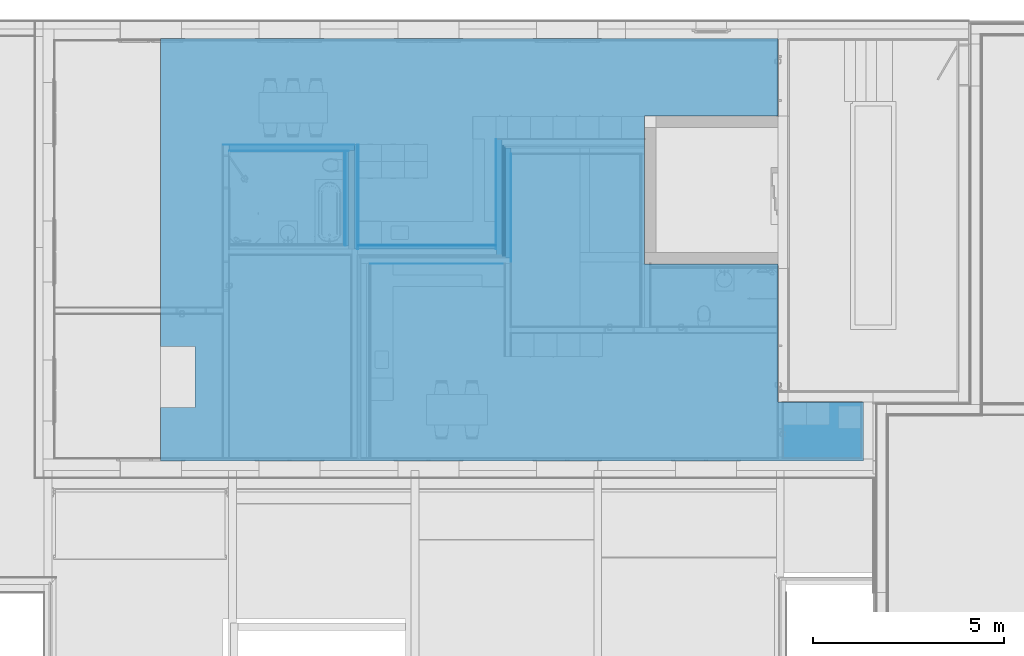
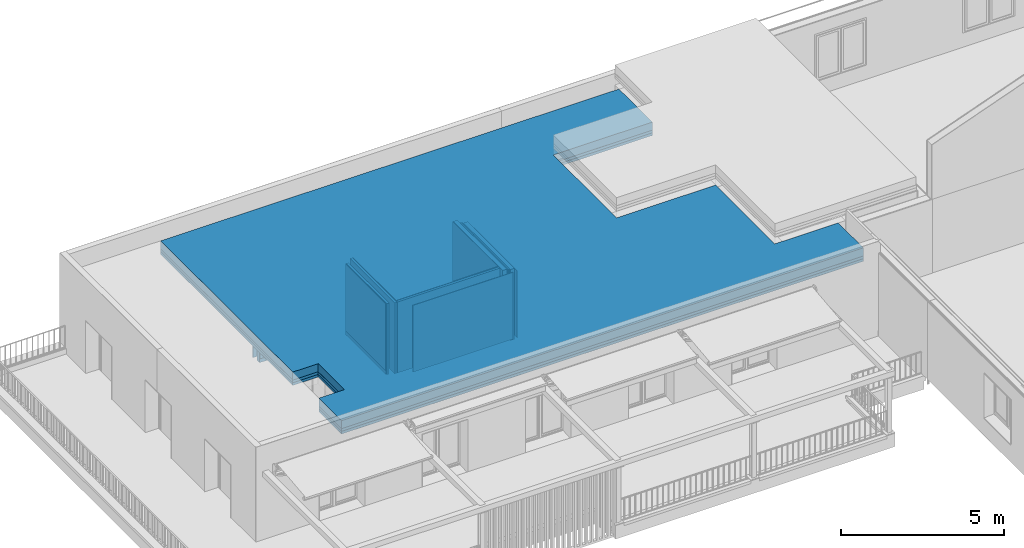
# One storey, part 10 of 36: 27 building element parts, 8 elements without a shape of their own.
"""IFC4 building model written with IfcOpenShell, lengths in millimetres."""

from ifc_helpers import new_model, entity, si_unit, converted_unit, derived_unit, direction, frame, origin_with_axes, place, context, subcontext, project, spatial, polygons, material, type_object, element, aggregate, save


model = new_model("IFC4")

# Units and contexts
model_context = context("Model", 3, precision=0.01, world=origin_with_axes(), true_north=direction((0.0, 1.0)))
body_context = subcontext(model_context, "Body", "Model", "MODEL_VIEW")
ifc_project = project(units=[si_unit("LENGTHUNIT", "METRE", prefix="MILLI"), si_unit("AREAUNIT", "SQUARE_METRE"), si_unit("VOLUMEUNIT", "CUBIC_METRE"), converted_unit("PLANEANGLEUNIT", "DEGREE", entity("IfcPlaneAngleMeasure", 0.0174532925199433), si_unit("PLANEANGLEUNIT", "RADIAN"), dimensions=[0, 0, 0, 0, 0, 0, 0]), converted_unit("TIMEUNIT", "Year", entity("IfcTimeMeasure", 31557600.0), si_unit("TIMEUNIT", "SECOND"), dimensions=[0, 0, 1, 0, 0, 0, 0]), si_unit("MASSUNIT", "GRAM", prefix="KILO"), si_unit("THERMODYNAMICTEMPERATUREUNIT", "DEGREE_CELSIUS"), si_unit("LUMINOUSINTENSITYUNIT", "LUMEN"), si_unit("ENERGYUNIT", "JOULE", prefix="MEGA"), derived_unit("THERMALCONDUCTANCEUNIT", [(si_unit("POWERUNIT", "WATT"), 1), (si_unit("LENGTHUNIT", "METRE"), -1), (si_unit("THERMODYNAMICTEMPERATUREUNIT", "KELVIN"), -1)]), derived_unit("SPECIFICHEATCAPACITYUNIT", [(si_unit("ENERGYUNIT", "JOULE"), 1), (si_unit("MASSUNIT", "GRAM", prefix="KILO"), -1), (si_unit("THERMODYNAMICTEMPERATUREUNIT", "KELVIN"), -1)]), derived_unit("MASSDENSITYUNIT", [(si_unit("MASSUNIT", "GRAM", prefix="KILO"), 1), (si_unit("VOLUMEUNIT", "CUBIC_METRE"), -1)])], contexts=[model_context])

# Site, building, storey
site_placement = place(None, origin_with_axes())
site = spatial("IfcSite", under=ifc_project, at=site_placement, Name="Gelände", CompositionType="ELEMENT")
building_placement = place(site_placement, origin_with_axes())
building = spatial("IfcBuilding", under=site, at=building_placement, Name="Gebäude", CompositionType="ELEMENT")
storey_placement = place(building_placement, frame((0.0, 0.0, 8700.0), z_axis=(0.0, 0.0, 1.0), x_axis=(1.0, 0.0, 0.0)))
storey = spatial("IfcBuildingStorey", under=building, at=storey_placement, Name="Attika", CompositionType="ELEMENT", Elevation=8700.0)

# Covering, building element parts
covering_type = type_object("IfcCoveringType", Name="Dacheindeckung Typ 02 - Flachdach 502", PredefinedType="NOTDEFINED")
covering_placement = place(storey_placement, frame((-770.3482138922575, 26407.59674077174, 2900.0), z_axis=(0.0, 0.0, 1.0), x_axis=(1.0, 0.0, 0.0)))
covering = element("IfcCovering", 1, at=covering_placement, inside=storey, type_object=covering_type, Name="Deckennr.-073", PredefinedType="NOTDEFINED")
ifc_material_1 = material(Name="Dachbegrünung extensiv")
building_element_part_1_placement = place(covering_placement, origin_with_axes())
building_element_part_1 = element("IfcBuildingElementPart", 2, at=building_element_part_1_placement, material=ifc_material_1, Name="Dachbegrünung extensiv", PredefinedType="NOTDEFINED", context=body_context, shape_type="Tessellation", body=[
    polygons([(18440.34565866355, 0.0, 201.9999999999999), (18440.34565866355, 0.0, 502.0000000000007), (0.0, 0.0, 502.0000000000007), (0.0, 0.0, 201.9999999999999), (18440.34565866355, 1540.000645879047, 201.9999999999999), (18440.34565866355, 1540.000645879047, 502.0000000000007), (16199.34564733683, 1540.000645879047, 502.0000000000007), (16199.34564733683, 5165.000494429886, 502.0000000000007), (12699.34581277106, 5165.000494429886, 502.0000000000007), (12699.34581277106, 9040.000649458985, 502.0000000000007), (16199.34564733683, 9040.000649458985, 502.0000000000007), (16199.34564733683, 11080.00054054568, 502.0000000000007), (0.0, 11080.00054054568, 502.0000000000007), (0.0, 2992.816803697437, 502.0000000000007), (900.0001006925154, 2992.816803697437, 502.0000000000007), (900.0001006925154, 1392.816624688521, 502.0000000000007), (0.0, 1392.816624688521, 502.0000000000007), (0.0, 1392.816624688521, 201.9999999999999), (900.0001006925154, 1392.816624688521, 201.9999999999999), (900.0001006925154, 2992.816803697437, 201.9999999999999), (0.0, 2992.816803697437, 201.9999999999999), (0.0, 11080.00054054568, 201.9999999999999), (16199.34564733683, 11080.00054054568, 201.9999999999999), (16199.34564733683, 9040.000649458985, 201.9999999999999), (12699.34581277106, 9040.000649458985, 201.9999999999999), (12699.34581277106, 5165.000494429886, 201.9999999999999), (16199.34564733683, 5165.000494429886, 201.9999999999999), (16199.34564733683, 1540.000645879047, 201.9999999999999)], [[[1, 2, 3, 4]], [[5, 6, 2, 1]], [[3, 2, 6, 7, 8, 9, 10, 11, 12, 13, 14, 15, 16, 17]], [[4, 3, 17, 18]], [[4, 18, 19, 20, 21, 22, 23, 24, 25, 26, 27, 28, 5, 1]], [[28, 7, 6, 5]], [[27, 8, 7, 28]], [[26, 9, 8, 27]], [[25, 10, 9, 26]], [[24, 11, 10, 25]], [[23, 12, 11, 24]], [[22, 13, 12, 23]], [[21, 14, 13, 22]], [[20, 15, 14, 21]], [[19, 16, 15, 20]], [[18, 17, 16, 19]]], closed=True),
])
ifc_material_2 = material(Name="Abdichtung Bitumen")
building_element_part_2_placement = place(covering_placement, origin_with_axes())
building_element_part_2 = element("IfcBuildingElementPart", 3, at=building_element_part_2_placement, material=ifc_material_2, Name="Abdichtung Bitumen", PredefinedType="NOTDEFINED", context=body_context, shape_type="Tessellation", body=[
    polygons([(18440.34565866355, 0.0, 201.0000000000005), (18440.34565866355, 0.0, 201.9999999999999), (0.0, 0.0, 201.9999999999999), (0.0, 0.0, 201.0000000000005), (18440.34565866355, 1540.000645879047, 201.0000000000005), (18440.34565866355, 1540.000645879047, 201.9999999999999), (16199.34564733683, 1540.000645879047, 201.9999999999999), (16199.34564733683, 5165.000494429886, 201.9999999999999), (12699.34581277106, 5165.000494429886, 201.9999999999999), (12699.34581277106, 9040.000649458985, 201.9999999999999), (16199.34564733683, 9040.000649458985, 201.9999999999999), (16199.34564733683, 11080.00054054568, 201.9999999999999), (0.0, 11080.00054054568, 201.9999999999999), (0.0, 2992.816803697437, 201.9999999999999), (900.0001006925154, 2992.816803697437, 201.9999999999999), (900.0001006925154, 1392.816624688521, 201.9999999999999), (0.0, 1392.816624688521, 201.9999999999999), (0.0, 1392.816624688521, 201.0000000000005), (900.0001006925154, 1392.816624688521, 201.0000000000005), (900.0001006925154, 2992.816803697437, 201.0000000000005), (0.0, 2992.816803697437, 201.0000000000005), (0.0, 11080.00054054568, 201.0000000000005), (16199.34564733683, 11080.00054054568, 201.0000000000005), (16199.34564733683, 9040.000649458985, 201.0000000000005), (12699.34581277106, 9040.000649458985, 201.0000000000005), (12699.34581277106, 5165.000494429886, 201.0000000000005), (16199.34564733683, 5165.000494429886, 201.0000000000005), (16199.34564733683, 1540.000645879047, 201.0000000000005)], [[[1, 2, 3, 4]], [[5, 6, 2, 1]], [[3, 2, 6, 7, 8, 9, 10, 11, 12, 13, 14, 15, 16, 17]], [[4, 3, 17, 18]], [[4, 18, 19, 20, 21, 22, 23, 24, 25, 26, 27, 28, 5, 1]], [[28, 7, 6, 5]], [[27, 8, 7, 28]], [[26, 9, 8, 27]], [[25, 10, 9, 26]], [[24, 11, 10, 25]], [[23, 12, 11, 24]], [[22, 13, 12, 23]], [[21, 14, 13, 22]], [[20, 15, 14, 21]], [[19, 16, 15, 20]], [[18, 17, 16, 19]]], closed=True),
])
ifc_material_3 = material(Name="Aufdachdämmung")
building_element_part_3_placement = place(covering_placement, origin_with_axes())
building_element_part_3 = element("IfcBuildingElementPart", 4, at=building_element_part_3_placement, material=ifc_material_3, Name="Aufdachdämmung", PredefinedType="NOTDEFINED", context=body_context, shape_type="Tessellation", body=[
    polygons([(18440.34565866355, 0.0, 101.0000000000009), (18440.34565866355, 0.0, 201.0000000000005), (0.0, 0.0, 201.0000000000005), (0.0, 0.0, 101.0000000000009), (18440.34565866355, 1540.000645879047, 101.0000000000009), (18440.34565866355, 1540.000645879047, 201.0000000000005), (16199.34564733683, 1540.000645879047, 201.0000000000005), (16199.34564733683, 5165.000494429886, 201.0000000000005), (12699.34581277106, 5165.000494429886, 201.0000000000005), (12699.34581277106, 9040.000649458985, 201.0000000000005), (16199.34564733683, 9040.000649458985, 201.0000000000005), (16199.34564733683, 11080.00054054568, 201.0000000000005), (0.0, 11080.00054054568, 201.0000000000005), (0.0, 2992.816803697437, 201.0000000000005), (900.0001006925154, 2992.816803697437, 201.0000000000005), (900.0001006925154, 1392.816624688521, 201.0000000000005), (0.0, 1392.816624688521, 201.0000000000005), (0.0, 1392.816624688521, 101.0000000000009), (900.0001006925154, 1392.816624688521, 101.0000000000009), (900.0001006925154, 2992.816803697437, 101.0000000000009), (0.0, 2992.816803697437, 101.0000000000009), (0.0, 11080.00054054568, 101.0000000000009), (16199.34564733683, 11080.00054054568, 101.0000000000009), (16199.34564733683, 9040.000649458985, 101.0000000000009), (12699.34581277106, 9040.000649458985, 101.0000000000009), (12699.34581277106, 5165.000494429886, 101.0000000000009), (16199.34564733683, 5165.000494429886, 101.0000000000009), (16199.34564733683, 1540.000645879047, 101.0000000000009)], [[[1, 2, 3, 4]], [[5, 6, 2, 1]], [[3, 2, 6, 7, 8, 9, 10, 11, 12, 13, 14, 15, 16, 17]], [[4, 3, 17, 18]], [[4, 18, 19, 20, 21, 22, 23, 24, 25, 26, 27, 28, 5, 1]], [[28, 7, 6, 5]], [[27, 8, 7, 28]], [[26, 9, 8, 27]], [[25, 10, 9, 26]], [[24, 11, 10, 25]], [[23, 12, 11, 24]], [[22, 13, 12, 23]], [[21, 14, 13, 22]], [[20, 15, 14, 21]], [[19, 16, 15, 20]], [[18, 17, 16, 19]]], closed=True),
])
ifc_material_4 = material(Name="Dampf- / Luftdichtigkeitsschicht")
building_element_part_4_placement = place(covering_placement, origin_with_axes())
building_element_part_4 = element("IfcBuildingElementPart", 5, at=building_element_part_4_placement, material=ifc_material_4, Name="Dampf- / Luftdichtigkeitsschicht", PredefinedType="NOTDEFINED", context=body_context, shape_type="Tessellation", body=[
    polygons([(18440.34565866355, 0.0, 1.000000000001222), (0.0, 0.0, 1.000000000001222), (0.0, 0.0, 0.0), (18440.34565866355, 0.0, 0.0), (900.0001006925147, 1392.816624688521, 1.000000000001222), (0.0, 1392.816624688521, 1.000000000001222), (18440.34565866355, 1540.000645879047, 1.000000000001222), (16199.34564733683, 1540.000645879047, 1.000000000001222), (16199.34564733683, 5165.000494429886, 1.000000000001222), (12699.34581277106, 5165.000494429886, 1.000000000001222), (12699.34581277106, 9040.000649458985, 1.000000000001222), (16199.34564733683, 9040.000649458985, 1.000000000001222), (16199.34564733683, 11080.00054054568, 1.000000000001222), (0.0, 11080.00054054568, 1.000000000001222), (0.0, 2992.816803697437, 1.000000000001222), (900.0001006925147, 2992.816803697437, 1.000000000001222), (0.0, 1392.816624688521, 0.0), (18440.34565866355, 1540.000645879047, 0.0), (900.0001006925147, 1392.816624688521, 0.0), (900.0001006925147, 2992.816803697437, 0.0), (0.0, 2992.816803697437, 0.0), (0.0, 11080.00054054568, 0.0), (16199.34564733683, 11080.00054054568, 0.0), (16199.34564733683, 9040.000649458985, 0.0), (12699.34581277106, 9040.000649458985, 0.0), (12699.34581277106, 5165.000494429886, 0.0), (16199.34564733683, 5165.000494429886, 0.0), (16199.34564733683, 1540.000645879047, 0.0)], [[[1, 2, 3, 4]], [[5, 6, 2, 1, 7, 8, 9, 10, 11, 12, 13, 14, 15, 16]], [[2, 6, 17, 3]], [[18, 4, 3, 17, 19, 20, 21, 22, 23, 24, 25, 26, 27, 28]], [[7, 1, 4, 18]], [[6, 5, 19, 17]], [[8, 7, 18, 28]], [[9, 8, 28, 27]], [[10, 9, 27, 26]], [[11, 10, 26, 25]], [[12, 11, 25, 24]], [[13, 12, 24, 23]], [[14, 13, 23, 22]], [[15, 14, 22, 21]], [[16, 15, 21, 20]], [[5, 16, 20, 19]]], closed=True),
])
ifc_material_5 = material(Name="Gefällsdämmung")
building_element_part_5_placement = place(covering_placement, origin_with_axes())
building_element_part_5 = element("IfcBuildingElementPart", 6, at=building_element_part_5_placement, material=ifc_material_5, Name="Gefällsdämmung", PredefinedType="NOTDEFINED", context=body_context, shape_type="Tessellation", body=[
    polygons([(18440.34565866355, 0.0, 1.000000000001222), (18440.34565866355, 0.0, 101.0000000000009), (0.0, 0.0, 101.0000000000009), (0.0, 0.0, 1.000000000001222), (18440.34565866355, 1540.000645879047, 1.000000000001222), (18440.34565866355, 1540.000645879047, 101.0000000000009), (16199.34564733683, 1540.000645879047, 101.0000000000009), (16199.34564733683, 5165.000494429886, 101.0000000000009), (12699.34581277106, 5165.000494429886, 101.0000000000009), (12699.34581277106, 9040.000649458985, 101.0000000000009), (16199.34564733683, 9040.000649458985, 101.0000000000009), (16199.34564733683, 11080.00054054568, 101.0000000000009), (0.0, 11080.00054054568, 101.0000000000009), (0.0, 2992.816803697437, 101.0000000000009), (900.0001006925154, 2992.816803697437, 101.0000000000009), (900.0001006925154, 1392.816624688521, 101.0000000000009), (0.0, 1392.816624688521, 101.0000000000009), (0.0, 1392.816624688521, 1.000000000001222), (900.0001006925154, 1392.816624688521, 1.000000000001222), (900.0001006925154, 2992.816803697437, 1.000000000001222), (0.0, 2992.816803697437, 1.000000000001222), (0.0, 11080.00054054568, 1.000000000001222), (16199.34564733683, 11080.00054054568, 1.000000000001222), (16199.34564733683, 9040.000649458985, 1.000000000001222), (12699.34581277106, 9040.000649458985, 1.000000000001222), (12699.34581277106, 5165.000494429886, 1.000000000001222), (16199.34564733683, 5165.000494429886, 1.000000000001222), (16199.34564733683, 1540.000645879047, 1.000000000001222)], [[[1, 2, 3, 4]], [[5, 6, 2, 1]], [[3, 2, 6, 7, 8, 9, 10, 11, 12, 13, 14, 15, 16, 17]], [[4, 3, 17, 18]], [[4, 18, 19, 20, 21, 22, 23, 24, 25, 26, 27, 28, 5, 1]], [[28, 7, 6, 5]], [[27, 8, 7, 28]], [[26, 9, 8, 27]], [[25, 10, 9, 26]], [[24, 11, 10, 25]], [[23, 12, 11, 24]], [[22, 13, 12, 23]], [[21, 14, 13, 22]], [[20, 15, 14, 21]], [[19, 16, 15, 20]], [[18, 17, 16, 19]]], closed=True),
])
aggregate(covering, [building_element_part_1, building_element_part_2, building_element_part_3, building_element_part_4, building_element_part_5])

# Wall, building element parts
wall_type_1 = type_object("IfcWallType", Name="Trennwand Typ 03 - verputzt 200", PredefinedType="NOTDEFINED")
wall_1_placement = place(storey_placement, frame((8038.997444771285, 34837.59728131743, 0.0), z_axis=(0.0, 0.0, 1.0), x_axis=(0.0, -1.0, 0.0)))
wall_1 = element("IfcWall", 7, at=wall_1_placement, inside=storey, type_object=wall_type_1, Name="Wand-014", PredefinedType="NOTDEFINED")
ifc_material_6 = material(Name="MW, Backstein")
building_element_part_6_placement = place(wall_1_placement, origin_with_axes())
building_element_part_6 = element("IfcBuildingElementPart", 8, at=building_element_part_6_placement, material=ifc_material_6, Name="MW, Backstein", PredefinedType="NOTDEFINED", context=body_context, shape_type="Tessellation", body=[
    polygons([(3024.999999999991, 0.0, 0.0), (0.0, 0.0, 0.0), (0.0, 150.0000000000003, 0.0), (3024.999999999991, 150.0000000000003, 0.0), (3024.999999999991, 0.0, 2649.999948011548), (0.0, 0.0, 2649.999948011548), (0.0, 150.0000000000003, 2649.999948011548), (3024.999999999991, 150.0000000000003, 2649.999948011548)], [[[1, 2, 3, 4]], [[5, 6, 2, 1]], [[3, 2, 6, 7]], [[4, 3, 7, 8]], [[4, 8, 5, 1]], [[8, 7, 6, 5]]], closed=True),
])
ifc_material_7 = material(Name="Kalkzementputz Aussen")
building_element_part_7_placement = place(wall_1_placement, origin_with_axes())
building_element_part_7 = element("IfcBuildingElementPart", 9, at=building_element_part_7_placement, material=ifc_material_7, Name="Kalkzementputz Aussen", PredefinedType="NOTDEFINED", context=body_context, shape_type="Tessellation", body=[
    polygons([(2874.999999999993, 0.0, 150.0000000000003), (0.0, 0.0, 150.0000000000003), (-9.99999999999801, 0.0, 150.0000000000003), (-9.99999999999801, 0.0, 2649.999948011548), (2874.999999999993, 0.0, 2649.999948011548), (-9.99999999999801, -9.999999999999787, 150.0000000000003), (2874.999999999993, -9.999999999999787, 150.0000000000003), (-9.99999999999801, -9.999999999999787, 2649.999948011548), (2874.999999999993, -9.999999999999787, 2649.999948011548)], [[[1, 2, 3, 4, 5]], [[6, 3, 2, 1, 7]], [[3, 6, 8, 4]], [[9, 5, 4, 8]], [[7, 1, 5, 9]], [[6, 7, 9, 8]]], closed=True),
])
ifc_material_8 = material(Name="Dämmung Innen")
building_element_part_8_placement = place(wall_1_placement, origin_with_axes())
building_element_part_8 = element("IfcBuildingElementPart", 10, at=building_element_part_8_placement, material=ifc_material_8, Name="Dämmung Innen", PredefinedType="NOTDEFINED", context=body_context, shape_type="Tessellation", body=[
    polygons([(3064.999999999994, 189.9999999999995, 0.0), (3064.999999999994, 150.0000000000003, 0.0), (149.9999999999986, 150.0000000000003, 0.0), (149.9999999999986, 189.9999999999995, 0.0), (3064.999999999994, 189.9999999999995, 2649.999948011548), (3064.999999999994, 150.0000000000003, 2649.999948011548), (149.9999999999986, 150.0000000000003, 2649.999948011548), (149.9999999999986, 189.9999999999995, 2649.999948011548)], [[[1, 2, 3, 4]], [[2, 1, 5, 6]], [[2, 6, 7, 3]], [[8, 4, 3, 7]], [[5, 1, 4, 8]], [[6, 5, 8, 7]]], closed=True),
])
aggregate(wall_1, [building_element_part_6, building_element_part_7, building_element_part_8])

wall_2_placement = place(storey_placement, frame((8418.997444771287, 31582.59728131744, 0.0), z_axis=(0.0, 0.0, 1.0), x_axis=(0.0, 1.0, 0.0)))
wall_2 = element("IfcWall", 11, at=wall_2_placement, inside=storey, type_object=wall_type_1, Name="Wand-016", PredefinedType="NOTDEFINED")
building_element_part_9_placement = place(wall_2_placement, origin_with_axes())
building_element_part_9 = element("IfcBuildingElementPart", 12, at=building_element_part_9_placement, material=ifc_material_8, Name="Dämmung Innen", PredefinedType="NOTDEFINED", context=body_context, shape_type="Tessellation", body=[
    polygons([(3064.99999999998, 150.0000000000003, 0.0), (190.0000000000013, 150.0000000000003, 0.0), (190.0000000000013, 189.9999999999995, 0.0), (3064.99999999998, 189.9999999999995, 0.0), (3064.99999999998, 150.0000000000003, 2649.999948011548), (190.0000000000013, 150.0000000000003, 2649.999948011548), (190.0000000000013, 189.9999999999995, 2649.999948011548), (3064.99999999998, 189.9999999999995, 2649.999948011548)], [[[1, 2, 3, 4]], [[5, 6, 2, 1]], [[3, 2, 6, 7]], [[4, 3, 7, 8]], [[4, 8, 5, 1]], [[8, 7, 6, 5]]], closed=True),
])
building_element_part_10_placement = place(wall_2_placement, origin_with_axes())
building_element_part_10 = element("IfcBuildingElementPart", 13, at=building_element_part_10_placement, material=ifc_material_6, Name="MW, Backstein", PredefinedType="NOTDEFINED", context=body_context, shape_type="Tessellation", body=[
    polygons([(3024.999999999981, 0.0, 0.0), (149.9999999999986, 0.0, 0.0), (149.9999999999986, 150.0000000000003, 0.0), (3024.999999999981, 150.0000000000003, 0.0), (3024.999999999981, 0.0, 2649.999948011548), (149.9999999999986, 0.0, 2649.999948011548), (149.9999999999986, 150.0000000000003, 2649.999948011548), (3024.999999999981, 150.0000000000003, 2649.999948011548)], [[[1, 2, 3, 4]], [[5, 6, 2, 1]], [[3, 2, 6, 7]], [[4, 3, 7, 8]], [[4, 8, 5, 1]], [[8, 7, 6, 5]]], closed=True),
])

# Wall, building element part
wall_3_placement = place(storey_placement, frame((4625.995818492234, 31582.59728131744, 0.0), z_axis=(0.0, 0.0, 1.0), x_axis=(1.0, 0.0, 0.0)))
wall_3 = element("IfcWall", 14, at=wall_3_placement, inside=storey, type_object=wall_type_1, Name="Wand-015", PredefinedType="NOTDEFINED")
building_element_part_11_placement = place(wall_3_placement, origin_with_axes())
building_element_part_11 = element("IfcBuildingElementPart", 15, at=building_element_part_11_placement, material=ifc_material_7, Name="Kalkzementputz Aussen", PredefinedType="NOTDEFINED", context=body_context, shape_type="Tessellation", body=[
    polygons([(3803.001626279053, -9.99999999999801, 150.0000000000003), (3803.001626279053, 0.0, 150.0000000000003), (3803.001626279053, 0.0, 2649.999948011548), (3803.001626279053, -9.99999999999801, 2649.999948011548), (3793.001626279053, 0.0, 150.0000000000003), (3793.001626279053, -9.99999999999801, 150.0000000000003), (3793.001626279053, 0.0, 2649.999948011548), (3793.001626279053, -9.99999999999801, 2649.999948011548)], [[[1, 2, 3, 4]], [[5, 2, 1, 6]], [[2, 5, 7, 3]], [[3, 7, 8, 4]], [[6, 1, 4, 8]], [[5, 6, 8, 7]]], closed=True),
    polygons([(3643.001626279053, -9.99999999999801, 150.0000000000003), (3643.001626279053, 0.0, 150.0000000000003), (3643.001626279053, 0.0, 2649.999948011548), (3643.001626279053, -9.99999999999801, 2649.999948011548), (104.9999999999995, 0.0, 150.0000000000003), (104.9999999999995, -10.00000000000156, 150.0000000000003), (104.9999999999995, 0.0, 2649.999948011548), (104.9999999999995, -10.00000000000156, 2649.999948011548)], [[[1, 2, 3, 4]], [[5, 2, 1, 6]], [[2, 5, 7, 3]], [[3, 7, 8, 4]], [[6, 1, 4, 8]], [[5, 6, 8, 7]]], closed=True),
])
aggregate(wall_3, [building_element_part_11])

# Building element part
building_element_part_12_placement = place(wall_2_placement, origin_with_axes())
building_element_part_12 = element("IfcBuildingElementPart", 16, at=building_element_part_12_placement, material=ifc_material_7, Name="Kalkzementputz Aussen", PredefinedType="NOTDEFINED", context=body_context, shape_type="Tessellation", body=[
    polygons([(0.0, -9.999999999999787, 150.0000000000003), (2874.99999999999, -9.999999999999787, 150.0000000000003), (2874.999999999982, -9.999999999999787, 2649.999948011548), (0.0, -9.999999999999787, 2649.999948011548), (2874.99999999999, 0.0, 150.0000000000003), (0.0, 0.0, 150.0000000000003), (2874.999999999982, 0.0, 2649.999948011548), (0.0, 0.0, 2649.999948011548)], [[[1, 2, 3, 4]], [[5, 2, 1, 6]], [[2, 5, 7, 3]], [[4, 3, 7, 8]], [[6, 1, 4, 8]], [[5, 6, 8, 7]]], closed=True),
])

aggregate(wall_2, [building_element_part_9, building_element_part_10, building_element_part_12])

# Wall, building element parts
wall_type_2 = type_object("IfcWallType", Name="Vorsatzschale 01 115", PredefinedType="NOTDEFINED")
wall_4_placement = place(storey_placement, frame((4050.773549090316, 32077.59728131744, 0.0), z_axis=(0.0, 0.0, 1.0), x_axis=(0.0, 1.0, 0.0)))
wall_4 = element("IfcWall", 17, at=wall_4_placement, inside=storey, type_object=wall_type_2, Name="Wand-014", PredefinedType="NOTDEFINED")
ifc_material_9 = material(Name="Gipskartonplatte GKP")
building_element_part_13_placement = place(wall_4_placement, origin_with_axes())
building_element_part_13 = element("IfcBuildingElementPart", 18, at=building_element_part_13_placement, material=ifc_material_9, Name="Gipskartonplatte GKP", PredefinedType="NOTDEFINED", context=body_context, shape_type="Tessellation", body=[
    polygons([(2456.466422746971, -22.49999999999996, 2649.999948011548), (2456.466422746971, -9.999999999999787, 2649.999948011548), (-9.99999999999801, -9.999999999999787, 2649.999948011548), (-9.99999999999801, -22.49999999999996, 2649.999948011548), (2456.466422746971, -22.49999999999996, 0.0), (2456.466422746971, -9.999999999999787, 0.0), (-9.99999999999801, -9.999999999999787, 0.0), (-9.99999999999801, -22.49999999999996, 0.0)], [[[1, 2, 3, 4]], [[1, 5, 6, 2]], [[2, 6, 7, 3]], [[4, 3, 7, 8]], [[5, 1, 4, 8]], [[6, 5, 8, 7]]], closed=True),
])
ifc_material_10 = material(Name="Ständer Konstruktion gedämmt")
building_element_part_14_placement = place(wall_4_placement, origin_with_axes())
building_element_part_14 = element("IfcBuildingElementPart", 19, at=building_element_part_14_placement, material=ifc_material_10, Name="Ständer Konstruktion gedämmt", PredefinedType="NOTDEFINED", context=body_context, shape_type="Tessellation", body=[
    polygons([(2456.466422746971, -115.0000000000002, 2649.999948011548), (2456.466422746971, -35.00000000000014, 2649.999948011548), (-34.99999999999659, -35.00000000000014, 2649.999948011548), (-34.99999999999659, -115.0000000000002, 2649.999948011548), (2456.466422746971, -115.0000000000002, 0.0), (2456.466422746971, -35.00000000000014, 0.0), (-34.99999999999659, -35.00000000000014, 0.0), (-34.99999999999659, -115.0000000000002, 0.0)], [[[1, 2, 3, 4]], [[1, 5, 6, 2]], [[2, 6, 7, 3]], [[4, 3, 7, 8]], [[5, 1, 4, 8]], [[6, 5, 8, 7]]], closed=True),
])
building_element_part_15_placement = place(wall_4_placement, origin_with_axes())
building_element_part_15 = element("IfcBuildingElementPart", 20, at=building_element_part_15_placement, material=ifc_material_9, Name="Gipskartonplatte GKP", PredefinedType="NOTDEFINED", context=body_context, shape_type="Tessellation", body=[
    polygons([(2456.466422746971, -35.00000000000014, 2649.999948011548), (2456.466422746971, -22.49999999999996, 2649.999948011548), (-22.50000000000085, -22.49999999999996, 2649.999948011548), (-22.50000000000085, -35.00000000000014, 2649.999948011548), (2456.466422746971, -35.00000000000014, 0.0), (2456.466422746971, -22.49999999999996, 0.0), (-22.50000000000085, -22.49999999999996, 0.0), (-22.50000000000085, -35.00000000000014, 0.0)], [[[1, 2, 3, 4]], [[1, 5, 6, 2]], [[2, 6, 7, 3]], [[4, 3, 7, 8]], [[5, 1, 4, 8]], [[6, 5, 8, 7]]], closed=True),
])
building_element_part_16_placement = place(wall_4_placement, origin_with_axes())
building_element_part_16 = element("IfcBuildingElementPart", 21, at=building_element_part_16_placement, material=ifc_material_7, Name="Kalkzementputz Aussen", PredefinedType="NOTDEFINED", context=body_context, shape_type="Tessellation", body=[
    polygons([(0.0, -9.999999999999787, 150.0000000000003), (2456.466422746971, -9.999999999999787, 150.0000000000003), (2456.466422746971, -9.999999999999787, 2649.999948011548), (0.0, -9.999999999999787, 2649.999948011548), (2456.466422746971, 0.0, 150.0000000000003), (0.0, 0.0, 150.0000000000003), (2456.466422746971, 0.0, 2649.999948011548), (0.0, 0.0, 2649.999948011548)], [[[1, 2, 3, 4]], [[5, 2, 1, 6]], [[2, 5, 7, 3]], [[4, 3, 7, 8]], [[6, 1, 4, 8]], [[5, 6, 8, 7]]], closed=True),
])
aggregate(wall_4, [building_element_part_13, building_element_part_14, building_element_part_15, building_element_part_16])

wall_5_placement = place(storey_placement, frame((4430.773549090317, 31962.59728131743, 0.0), z_axis=(0.0, 0.0, 1.0), x_axis=(0.0, 1.0, 0.0)))
wall_5 = element("IfcWall", 22, at=wall_5_placement, inside=storey, type_object=wall_type_2, Name="Wand-014", PredefinedType="NOTDEFINED")
building_element_part_17_placement = place(wall_5_placement, origin_with_axes())
building_element_part_17 = element("IfcBuildingElementPart", 23, at=building_element_part_17_placement, material=ifc_material_9, Name="Gipskartonplatte GKP", PredefinedType="NOTDEFINED", context=body_context, shape_type="Tessellation", body=[
    polygons([(2741.466422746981, 35.00000000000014, 0.0), (2741.466422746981, 22.49999999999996, 0.0), (0.0, 22.49999999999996, 0.0), (0.0, 35.00000000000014, 0.0), (2741.466422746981, 35.00000000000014, 2649.999948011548), (2741.466422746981, 22.49999999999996, 2649.999948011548), (0.0, 22.49999999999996, 2649.999948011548), (0.0, 35.00000000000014, 2649.999948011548)], [[[1, 2, 3, 4]], [[1, 5, 6, 2]], [[2, 6, 7, 3]], [[4, 3, 7, 8]], [[5, 1, 4, 8]], [[6, 5, 8, 7]]], closed=True),
])
building_element_part_18_placement = place(wall_5_placement, origin_with_axes())
building_element_part_18 = element("IfcBuildingElementPart", 24, at=building_element_part_18_placement, material=ifc_material_10, Name="Ständer Konstruktion gedämmt", PredefinedType="NOTDEFINED", context=body_context, shape_type="Tessellation", body=[
    polygons([(2741.466422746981, 115.0000000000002, 0.0), (2741.466422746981, 35.00000000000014, 0.0), (0.0, 35.00000000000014, 0.0), (0.0, 115.0000000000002, 0.0), (2741.466422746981, 115.0000000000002, 2649.999948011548), (2741.466422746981, 35.00000000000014, 2649.999948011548), (0.0, 35.00000000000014, 2649.999948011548), (0.0, 115.0000000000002, 2649.999948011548)], [[[1, 2, 3, 4]], [[1, 5, 6, 2]], [[2, 6, 7, 3]], [[4, 3, 7, 8]], [[5, 1, 4, 8]], [[6, 5, 8, 7]]], closed=True),
])
building_element_part_19_placement = place(wall_5_placement, origin_with_axes())
building_element_part_19 = element("IfcBuildingElementPart", 25, at=building_element_part_19_placement, material=ifc_material_9, Name="Gipskartonplatte GKP", PredefinedType="NOTDEFINED", context=body_context, shape_type="Tessellation", body=[
    polygons([(0.0, 22.49999999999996, 0.0), (2741.466422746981, 22.49999999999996, 0.0), (2741.466422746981, 9.999999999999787, 0.0), (0.0, 9.999999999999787, 0.0), (0.0, 22.49999999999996, 2649.999948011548), (2741.466422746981, 22.49999999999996, 2649.999948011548), (2741.466422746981, 9.999999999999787, 2649.999948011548), (0.0, 9.999999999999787, 2649.999948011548)], [[[1, 2, 3, 4]], [[5, 6, 2, 1]], [[3, 2, 6, 7]], [[4, 3, 7, 8]], [[5, 1, 4, 8]], [[8, 7, 6, 5]]], closed=True),
])
building_element_part_20_placement = place(wall_5_placement, origin_with_axes())
building_element_part_20 = element("IfcBuildingElementPart", 26, at=building_element_part_20_placement, material=ifc_material_7, Name="Kalkzementputz Aussen", PredefinedType="NOTDEFINED", context=body_context, shape_type="Tessellation", body=[
    polygons([(104.9999999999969, 0.0, 150.0000000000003), (2741.466422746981, 0.0, 150.0000000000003), (2741.466422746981, 0.0, 2649.999948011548), (104.9999999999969, 0.0, 2649.999948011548), (2741.466422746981, 9.999999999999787, 150.0000000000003), (104.9999999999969, 9.999999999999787, 150.0000000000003), (2741.466422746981, 9.999999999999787, 2649.999948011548), (104.9999999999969, 9.999999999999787, 2649.999948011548)], [[[1, 2, 3, 4]], [[5, 2, 1, 6]], [[2, 5, 7, 3]], [[7, 8, 4, 3]], [[6, 1, 4, 8]], [[5, 6, 8, 7]]], closed=True),
])
aggregate(wall_5, [building_element_part_17, building_element_part_18, building_element_part_19, building_element_part_20])

wall_6_placement = place(storey_placement, frame((8028.997444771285, 31962.59728131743, 0.0), z_axis=(0.0, 0.0, 1.0), x_axis=(-1.0, 0.0, 0.0)))
wall_6 = element("IfcWall", 27, at=wall_6_placement, inside=storey, type_object=wall_type_2, Name="Wand-014", PredefinedType="NOTDEFINED")
building_element_part_21_placement = place(wall_6_placement, origin_with_axes())
building_element_part_21 = element("IfcBuildingElementPart", 28, at=building_element_part_21_placement, material=ifc_material_10, Name="Ständer Konstruktion gedämmt", PredefinedType="NOTDEFINED", context=body_context, shape_type="Tessellation", body=[
    polygons([(3608.223895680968, -79.9999999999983, 0.0), (3608.223895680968, -79.9999999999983, 2649.999948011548), (0.0, -79.9999999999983, 2649.999948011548), (0.0, -79.9999999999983, 0.0), (3608.223895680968, 0.0, 2649.999948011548), (3608.223895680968, 0.0, 0.0), (0.0, 0.0, 2649.999948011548), (0.0, 0.0, 0.0)], [[[1, 2, 3, 4]], [[5, 2, 1, 6]], [[2, 5, 7, 3]], [[3, 7, 8, 4]], [[6, 1, 4, 8]], [[5, 6, 8, 7]]], closed=True),
])
building_element_part_22_placement = place(wall_6_placement, origin_with_axes())
building_element_part_22 = element("IfcBuildingElementPart", 29, at=building_element_part_22_placement, material=ifc_material_9, Name="Gipskartonplatte GKP", PredefinedType="NOTDEFINED", context=body_context, shape_type="Tessellation", body=[
    polygons([(3608.223895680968, -104.9999999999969, 0.0), (3608.223895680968, -104.9999999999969, 2649.999948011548), (0.0, -104.9999999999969, 2649.999948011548), (0.0, -104.9999999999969, 0.0), (3608.223895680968, -92.50000000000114, 2649.999948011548), (3608.223895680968, -92.50000000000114, 0.0), (0.0, -92.50000000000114, 2649.999948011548), (0.0, -92.50000000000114, 0.0)], [[[1, 2, 3, 4]], [[5, 2, 1, 6]], [[2, 5, 7, 3]], [[3, 7, 8, 4]], [[6, 1, 4, 8]], [[5, 6, 8, 7]]], closed=True),
])
building_element_part_23_placement = place(wall_6_placement, origin_with_axes())
building_element_part_23 = element("IfcBuildingElementPart", 30, at=building_element_part_23_placement, material=ifc_material_7, Name="Kalkzementputz Aussen", PredefinedType="NOTDEFINED", context=body_context, shape_type="Tessellation", body=[
    polygons([(0.0, -104.9999999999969, 150.0000000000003), (0.0, -115.000000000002, 150.0000000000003), (0.0, -115.000000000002, 2649.999948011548), (0.0, -104.9999999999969, 2649.999948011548), (3598.223895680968, -115.000000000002, 150.0000000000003), (3598.223895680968, -104.9999999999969, 150.0000000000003), (3598.223895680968, -115.000000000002, 2649.999948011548), (3598.223895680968, -104.9999999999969, 2649.999948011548)], [[[1, 2, 3, 4]], [[5, 2, 1, 6]], [[2, 5, 7, 3]], [[3, 7, 8, 4]], [[6, 1, 4, 8]], [[5, 6, 8, 7]]], closed=True),
])

wall_type_3 = type_object("IfcWallType", Name="Innenwand Typ 05 170", PredefinedType="NOTDEFINED")
wall_7_placement = place(storey_placement, frame((865.9958184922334, 34704.06370406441, 0.0), z_axis=(0.0, 0.0, 1.0), x_axis=(1.0, 0.0, 0.0)))
wall_7 = element("IfcWall", 31, at=wall_7_placement, inside=storey, type_object=wall_type_3, Name="Wand-014", PredefinedType="NOTDEFINED")
building_element_part_24_placement = place(wall_7_placement, origin_with_axes())
building_element_part_24 = element("IfcBuildingElementPart", 32, at=building_element_part_24_placement, material=ifc_material_7, Name="Kalkzementputz Aussen", PredefinedType="NOTDEFINED", context=body_context, shape_type="Tessellation", body=[
    polygons([(3449.777730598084, -9.99999999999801, 150.0000000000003), (3449.777730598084, 0.0, 150.0000000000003), (3449.777730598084, 0.0, 2649.999948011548), (3449.777730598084, -9.99999999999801, 2649.999948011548), (10.00000000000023, 0.0, 150.0000000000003), (10.00000000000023, -9.99999999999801, 150.0000000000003), (10.00000000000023, 0.0, 2649.999948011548), (10.00000000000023, -9.99999999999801, 2649.999948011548)], [[[1, 2, 3, 4]], [[5, 2, 1, 6]], [[2, 5, 7, 3]], [[4, 3, 7, 8]], [[6, 1, 4, 8]], [[5, 6, 8, 7]]], closed=True),
])
building_element_part_25_placement = place(wall_7_placement, origin_with_axes())
building_element_part_25 = element("IfcBuildingElementPart", 33, at=building_element_part_25_placement, material=ifc_material_6, Name="MW, Backstein", PredefinedType="NOTDEFINED", context=body_context, shape_type="Tessellation", body=[
    polygons([(3449.777730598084, -9.99999999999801, 2649.999948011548), (159.9999999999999, -9.99999999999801, 2649.999948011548), (159.9999999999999, -159.9999999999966, 2649.999948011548), (3449.777730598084, -159.9999999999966, 2649.999948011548), (3449.777730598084, -9.99999999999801, 0.0), (159.9999999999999, -9.99999999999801, 0.0), (159.9999999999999, -159.9999999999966, 0.0), (3449.777730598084, -159.9999999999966, 0.0)], [[[1, 2, 3, 4]], [[5, 6, 2, 1]], [[3, 2, 6, 7]], [[4, 3, 7, 8]], [[4, 8, 5, 1]], [[8, 7, 6, 5]]], closed=True),
])

# Building element part
building_element_part_26_placement = place(wall_6_placement, origin_with_axes())
building_element_part_26 = element("IfcBuildingElementPart", 34, at=building_element_part_26_placement, material=ifc_material_9, Name="Gipskartonplatte GKP", PredefinedType="NOTDEFINED", context=body_context, shape_type="Tessellation", body=[
    polygons([(3608.223895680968, -92.50000000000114, 0.0), (3608.223895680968, -92.50000000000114, 2649.999948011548), (0.0, -92.50000000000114, 2649.999948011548), (0.0, -92.50000000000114, 0.0), (3608.223895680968, -79.9999999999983, 2649.999948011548), (3608.223895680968, -79.9999999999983, 0.0), (0.0, -79.9999999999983, 2649.999948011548), (0.0, -79.9999999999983, 0.0)], [[[1, 2, 3, 4]], [[5, 2, 1, 6]], [[2, 5, 7, 3]], [[3, 7, 8, 4]], [[6, 1, 4, 8]], [[5, 6, 8, 7]]], closed=True),
])

aggregate(wall_6, [building_element_part_21, building_element_part_22, building_element_part_23, building_element_part_26])

building_element_part_27_placement = place(wall_7_placement, origin_with_axes())
building_element_part_27 = element("IfcBuildingElementPart", 35, at=building_element_part_27_placement, material=ifc_material_7, Name="Kalkzementputz Aussen", PredefinedType="NOTDEFINED", context=body_context, shape_type="Tessellation", body=[
    polygons([(3299.777730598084, -170.0000000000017, 150.0000000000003), (3299.777730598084, -159.9999999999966, 150.0000000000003), (3299.777730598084, -159.9999999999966, 2649.999948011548), (3299.777730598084, -170.0000000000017, 2649.999948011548), (170.0000000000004, -159.9999999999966, 150.0000000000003), (170.0000000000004, -170.0000000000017, 150.0000000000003), (170.0000000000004, -159.9999999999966, 2649.999948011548), (170.0000000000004, -170.0000000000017, 2649.999948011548)], [[[1, 2, 3, 4]], [[5, 2, 1, 6]], [[2, 5, 7, 3]], [[4, 3, 7, 8]], [[6, 1, 4, 8]], [[5, 6, 8, 7]]], closed=True),
])

aggregate(wall_7, [building_element_part_24, building_element_part_25, building_element_part_27])

save(model, "model.ifc")
